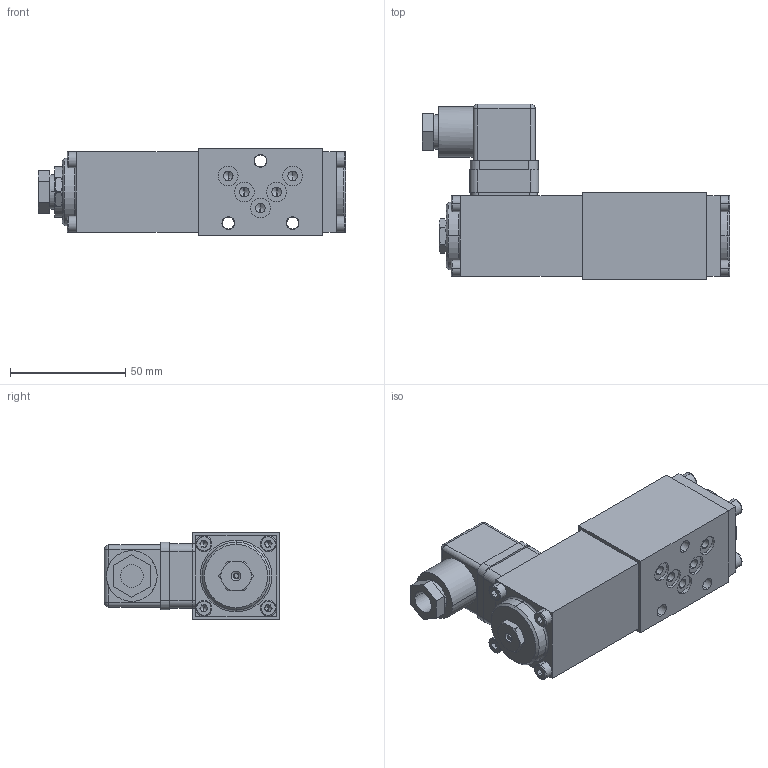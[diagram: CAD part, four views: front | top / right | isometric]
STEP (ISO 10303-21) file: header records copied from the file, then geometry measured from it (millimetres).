
FILE_DESCRIPTION (( 'STEP AP214' ), '1' );
FILE_NAME ('BE4.4.a.STEP', '2017-03-17T12:32:11', ( '' ), ( '' ), 'SwSTEP 2.0', 'SolidWorks 2016', '' );
FILE_SCHEMA (( 'AUTOMOTIVE_DESIGN' ));
Length unit declared in the file: millimetre
Products named in the file (1): BE4.4.a
Bounding box: 133.5 x 76.3 x 38 mm (x, y, z)
Volume: 181260.9 mm3; surface area: 46186.3 mm2
Topology: 17 solids, 23 shells, 838 faces, 2045 edges, 1279 vertices
Faces by surface type: plane 444, cylinder 240, cone 89, torus 34, bspline 31
Entity records: 35320 total; most frequent: CARTESIAN_POINT 6094, DIRECTION 4175, ORIENTED_EDGE 3998, EDGE_CURVE 1999, AXIS2_PLACEMENT_3D 1472, VERTEX_POINT 1279, VECTOR 1231, LINE 1231
